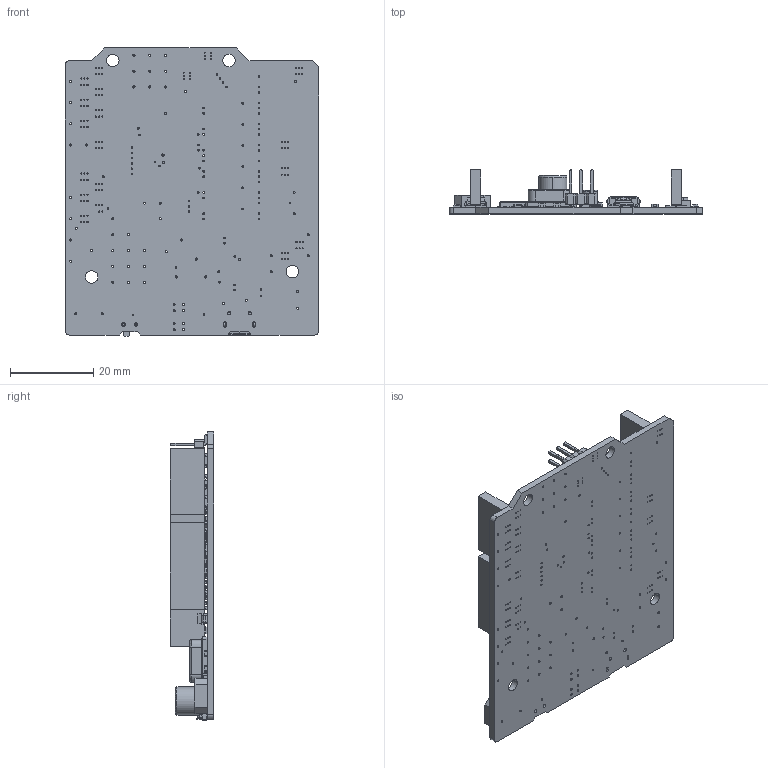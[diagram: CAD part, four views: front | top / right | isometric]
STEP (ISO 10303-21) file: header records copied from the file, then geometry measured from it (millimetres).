
FILE_DESCRIPTION (( 'STEP AP214' ), '1' );
FILE_NAME ('MAKER-UNO.STEP', '2019-10-11T06:56:18', ( '' ), ( '' ), 'SwSTEP 2.0', 'SolidWorks 2015', '' );
FILE_SCHEMA (( 'AUTOMOTIVE_DESIGN' ));
Length unit declared in the file: millimetre
Products named in the file (22): S-HDR-M2X03; SOT-23-5; PCB Component; SW-SLIDE-SPDT-SMD; R1608; XTAL-HC49UP; TQFP-32-08; SOIC-16N; S-HDR-F1X08; D-SMA; S-HDR-F1X10; S-HDR-F1X06; C2012; SW-PB-KAN3246; SOT-23; LED-1608; Board; C1608; MAKER-UNO; USB-MICRO-B-REC; ECAP-CHEMICON-F; S-BUZZER-HXD-8530A-03627
Assembly tree (93 placements, depth 3):
  MAKER-UNO
    PCB Component
      Board
      TQFP-32-08
      S-BUZZER-HXD-8530A-03627
      S-HDR-F1X06
      S-HDR-F1X08  x2
      S-HDR-F1X10
      SOIC-16N
      LED-1608  x16
      USB-MICRO-B-REC
      XTAL-HC49UP  x2
      C1608  x11
      R1608  x33
      SW-PB-KAN3246  x2
      S-HDR-M2X03
      SOT-23  x13
      SOT-23-5
      C2012
      D-SMA
      ECAP-CHEMICON-F
      SW-SLIDE-SPDT-SMD
Bounding box: 60.96 x 10.57 x 69.35 mm (x, y, z)
Volume: 9199.3 mm3; surface area: 15115 mm2
Topology: 96 solids, 128 shells, 5559 faces, 14920 edges, 9713 vertices
Faces by surface type: plane 3939, cylinder 1453, bspline 159, torus 4, cone 4
Entity records: 136346 total; most frequent: CARTESIAN_POINT 20100, ORIENTED_EDGE 17126, DIRECTION 16989, EDGE_CURVE 8565, LINE 6091, VECTOR 6091, VERTEX_POINT 5584, AXIS2_PLACEMENT_3D 5449
